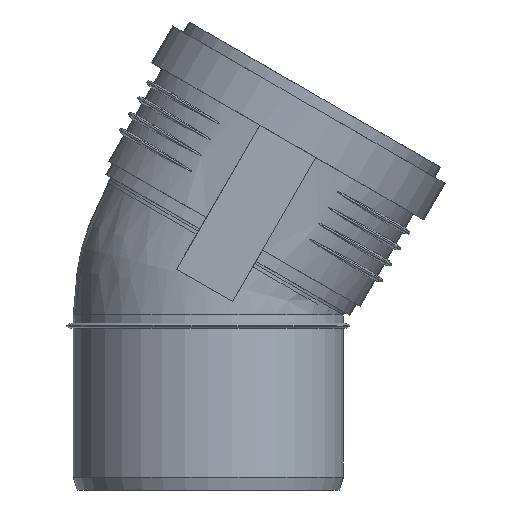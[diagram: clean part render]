
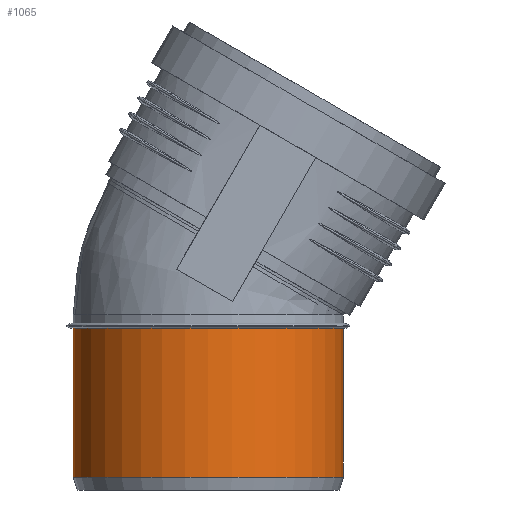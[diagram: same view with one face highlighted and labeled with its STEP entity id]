
A CAD part, front view. The second image highlights one B-rep face of the part: STEP entity #1065.
In plain terms, the highlighted cylindrical face has radius 62.6 mm (diameter 125.2 mm), a full revolution.
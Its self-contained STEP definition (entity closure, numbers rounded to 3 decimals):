
#190=CYLINDRICAL_SURFACE($,#1140,62.6);
#209=FACE_BOUND($,#314,.T.);
#252=FACE_OUTER_BOUND($,#313,.T.);
#313=EDGE_LOOP($,(#716));
#314=EDGE_LOOP($,(#717));
#414=CIRCLE($,#1138,62.6);
#416=CIRCLE($,#1141,62.6);
#469=VERTEX_POINT($,#1555);
#471=VERTEX_POINT($,#1560);
#575=EDGE_CURVE($,#469,#469,#414,.T.);
#577=EDGE_CURVE($,#471,#471,#416,.T.);
#716=ORIENTED_EDGE($,*,*,#577,.T.);
#717=ORIENTED_EDGE($,*,*,#575,.F.);
#1065=ADVANCED_FACE($,(#252,#209),#190,.T.);
#1138=AXIS2_PLACEMENT_3D($,#1556,#1267,#1268);
#1140=AXIS2_PLACEMENT_3D($,#1559,#1271,#1272);
#1141=AXIS2_PLACEMENT_3D($,#1561,#1273,#1274);
#1267=DIRECTION('center_axis',(0.,0.,-1.));
#1268=DIRECTION('ref_axis',(-1.,0.,0.));
#1271=DIRECTION('center_axis',(0.,0.,1.));
#1272=DIRECTION('ref_axis',(-1.,0.,0.));
#1273=DIRECTION('center_axis',(0.,0.,-1.));
#1274=DIRECTION('ref_axis',(-1.,0.,0.));
#1555=CARTESIAN_POINT('',(62.6,0.,6.));
#1556=CARTESIAN_POINT('Origin',(0.,0.,6.));
#1559=CARTESIAN_POINT('Origin',(0.,0.,0.));
#1560=CARTESIAN_POINT('',(-62.6,0.,74.9));
#1561=CARTESIAN_POINT('Origin',(0.,0.,74.9));
